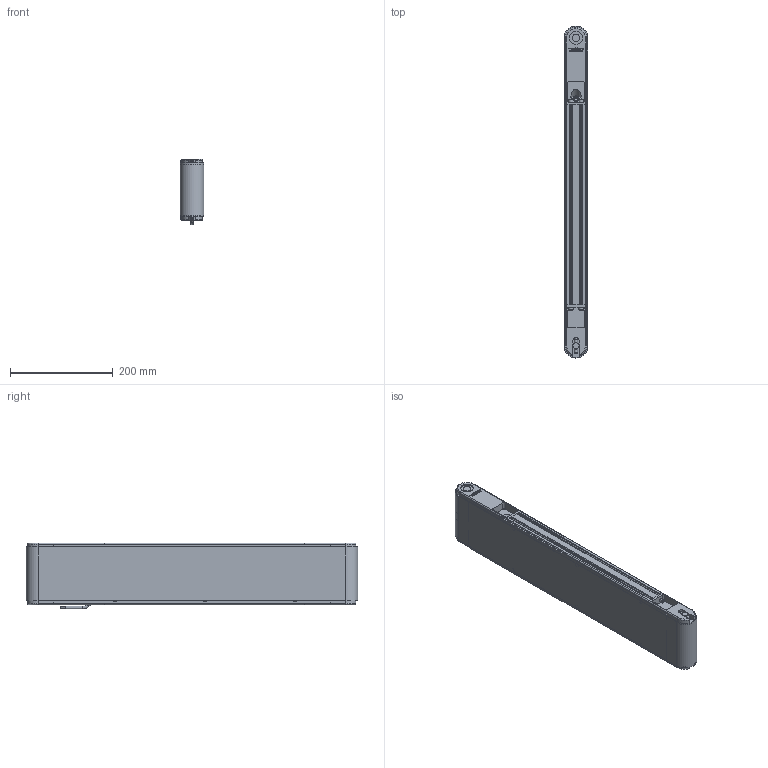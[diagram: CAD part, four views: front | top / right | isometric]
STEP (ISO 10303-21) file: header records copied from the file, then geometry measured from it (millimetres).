
FILE_DESCRIPTION(/* description */ (''),/* implementation_level */ '2;1');
FILE_NAME(/* name */ 'G:\DATEN\CAD\Förderband\Marketing\3D-Modelle (Standard)\FR-40-120\FR-40-120-600-K.stp',/* time_stamp */ '2019-05-08T08:32:37+02:00',/* author */ ('melanie.ochs'),/* organization */ (''),/* preprocessor_version */ 'ST-DEVELOPER v17',/* originating_system */ 'Autodesk Inventor 2019',/* authorisation */ '');
FILE_SCHEMA (('CONFIG_CONTROL_DESIGN'));
Length unit declared in the file: centimetre
Products named in the file (1): FR-40-120-600-K
Bounding box: 46.6 x 646.6 x 128.53 mm (x, y, z)
Volume: 1551425.7 mm3; surface area: 602372.9 mm2
Topology: 6 solids, 29 shells, 1039 faces, 2831 edges, 1892 vertices
Faces by surface type: plane 533, cylinder 287, bspline 122, cone 72, torus 25
Full cylindrical faces by diameter (mm): 2 x2, 4 x6, 4.3 x4, 4.64 x2, 4.917 x3, 5 x11, 5.5 x8, 6 x6, 6.5 x1, 6.647 x3, 8 x4, 8.3 x6, 8.5 x8, 8.773 x1, 10 x1, 11 x1, 12 x4, 15 x4, 20 x4, 25 x2, 28 x4
Entity records: 35427 total; most frequent: CARTESIAN_POINT 8396, ORIENTED_EDGE 5638, DIRECTION 5111, EDGE_CURVE 2819, VERTEX_POINT 1892, AXIS2_PLACEMENT_3D 1773, LINE 1565, VECTOR 1565
